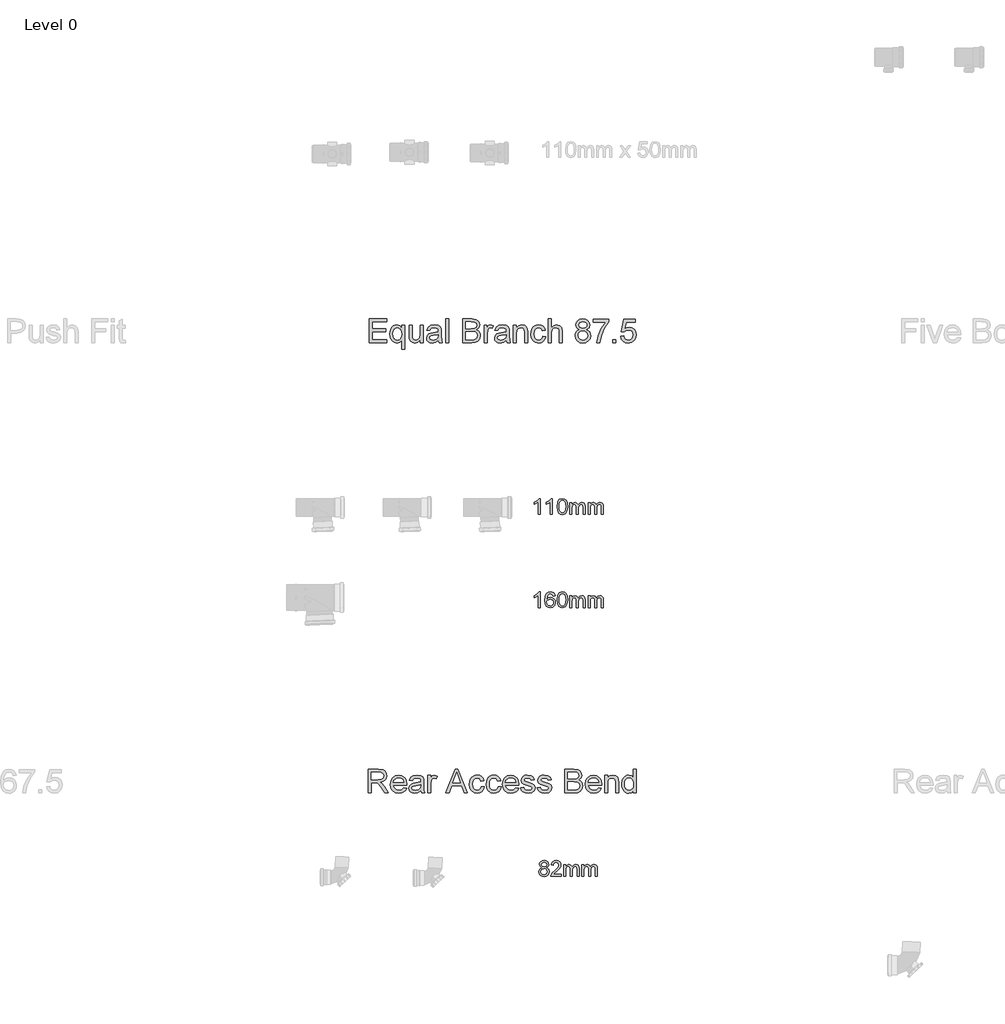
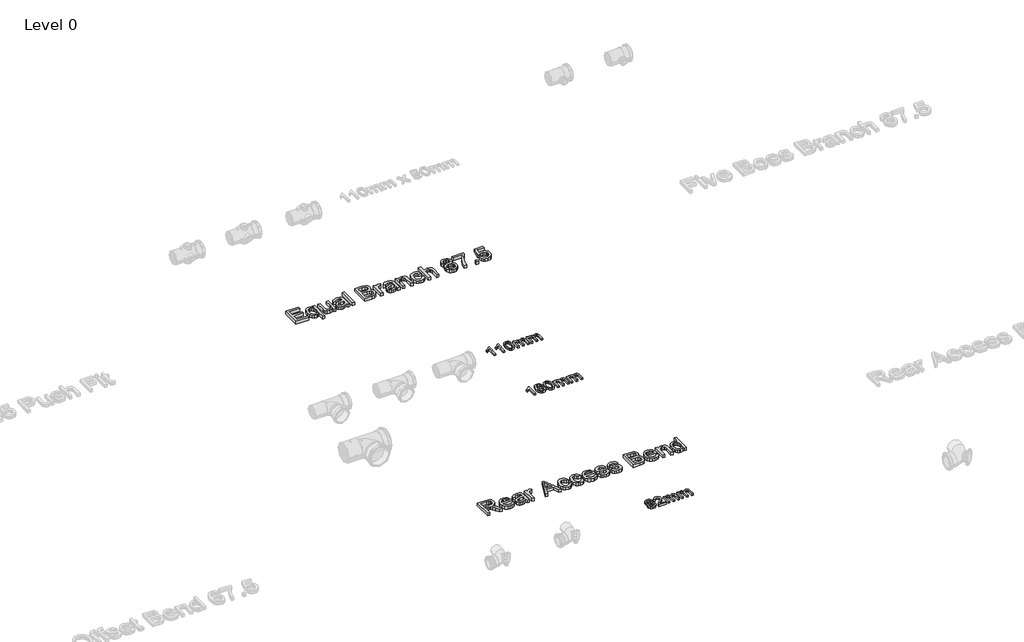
# One storey, part 11 of 23: 5 proxies.
"""IFC4 building model written with IfcOpenShell, lengths in millimetres."""

from ifc_helpers import new_model, si_unit, origin, origin_with_axes, place, context, project, spatial, polyline, outline, extrude, element, save

model = new_model("IFC4")

# Units and contexts
model_context = context("Model", 3, world=origin())
ifc_project = project(units=[si_unit("LENGTHUNIT", "METRE", prefix="MILLI")], contexts=[model_context])

# Site, building, storey
site = spatial("IfcSite", under=ifc_project)
building = spatial("IfcBuilding", under=site)
storey = spatial("IfcBuildingStorey", under=building, Name="Level 0", Elevation=0.0)

# Proxies
placement = place(None, origin())
element("IfcBuildingElementProxy", 1, Name="100mm Arial", ObjectType="100mm Arial", at=placement, inside=storey, context=model_context, shape_type="SweptSolid", body=[
    extrude(outline(polyline([(-13791.7293188, 2637.7167304), (-13804.0370111, 2637.7167304), (-13804.0370111, 2714.4474996), (-13815.6956649, 2706.1422111), (-13828.6523957, 2699.9282688), (-13828.6523957, 2711.5628842), (-13810.6115303, 2723.0773073), (-13799.6620111, 2736.1782688), (-13791.7293188, 2736.1782688), (-13791.7293188, 2637.7167304)])), origin_with_axes(), (0.0, 0.0, 1.0), 15.0),
    extrude(outline(polyline([(-13716.3447034, 2637.7167304), (-13728.6523957, 2637.7167304), (-13728.6523957, 2714.4474996), (-13740.3110495, 2706.1422111), (-13753.2677803, 2699.9282688), (-13753.2677803, 2711.5628842), (-13735.2269149, 2723.0773073), (-13724.2773957, 2736.1782688), (-13716.3447034, 2736.1782688), (-13716.3447034, 2637.7167304)])), origin_with_axes(), (0.0, 0.0, 1.0), 15.0),
    extrude(outline(polyline([(-13687.1139341, 2686.1542304), (-13683.4961457, 2714.4835573), (-13672.7509534, 2730.8176919), (-13654.8062418, 2736.1782688), (-13640.4312418, 2733.0051919), (-13630.5033572, 2723.8585573), (-13624.7341264, 2709.2912496), (-13622.4985495, 2686.1542304), (-13626.0802803, 2657.9450958), (-13636.7894149, 2641.5749035), (-13654.8062418, 2636.1782688), (-13667.5947034, 2638.5220188), (-13677.3062418, 2645.5532688), (-13684.6620111, 2662.2059131), (-13687.1139341, 2686.1542304)]), holes=[polyline([(-13674.8062418, 2686.1782688), (-13673.3639341, 2666.8182929), (-13669.0370111, 2655.613365), (-13662.5947034, 2650.2678121), (-13654.8062418, 2648.4859611), (-13647.0177803, 2650.2738217), (-13640.5754726, 2655.6374035), (-13636.2485495, 2666.848341), (-13634.8062418, 2686.1782688), (-13636.2004726, 2705.1025477), (-13640.3831649, 2716.394615), (-13646.8134534, 2722.0015861), (-13654.9504726, 2723.8705765), (-13662.6547995, 2722.2239419), (-13668.8447034, 2717.2840381), (-13673.3158572, 2705.2888458), (-13674.8062418, 2686.1782688)])]), origin_with_axes(), (0.0, 0.0, 1.0), 15.0),
    extrude(outline(polyline([(-13608.6523957, 2637.7167304), (-13608.6523957, 2710.0244227), (-13596.3447034, 2710.0244227), (-13596.3447034, 2698.1253842), (-13587.8831649, 2707.8729804), (-13575.8398957, 2711.5628842), (-13563.5081649, 2707.800865), (-13556.7293188, 2697.2599996), (-13547.1259534, 2707.9871631), (-13534.9985495, 2711.5628842), (-13525.7467466, 2710.0755044), (-13518.9047995, 2705.613365), (-13514.6770351, 2698.0562736), (-13513.2677803, 2687.2840381), (-13513.2677803, 2637.7167304), (-13525.5754726, 2637.7167304), (-13525.5754726, 2681.9955765), (-13526.7172995, 2692.2720188), (-13530.8519149, 2697.332115), (-13537.8831649, 2699.2551919), (-13549.9865303, 2694.3273073), (-13554.8062418, 2678.5340381), (-13554.8062418, 2637.7167304), (-13567.1139341, 2637.7167304), (-13567.1139341, 2683.3657688), (-13569.9624918, 2695.2888458), (-13579.3014341, 2699.2551919), (-13588.4120111, 2696.6109611), (-13594.4697034, 2688.8705765), (-13596.3447034, 2674.1830765), (-13596.3447034, 2637.7167304), (-13608.6523957, 2637.7167304)])), origin_with_axes(), (0.0, 0.0, 1.0), 15.0),
    extrude(outline(polyline([(-13494.8062418, 2637.7167304), (-13494.8062418, 2710.0244227), (-13482.4985495, 2710.0244227), (-13482.4985495, 2698.1253842), (-13474.0370111, 2707.8729804), (-13461.9937418, 2711.5628842), (-13449.6620111, 2707.800865), (-13442.8831649, 2697.2599996), (-13433.2797995, 2707.9871631), (-13421.1523957, 2711.5628842), (-13411.9005928, 2710.0755044), (-13405.0586457, 2705.613365), (-13400.8308813, 2698.0562736), (-13399.4216264, 2687.2840381), (-13399.4216264, 2637.7167304), (-13411.7293188, 2637.7167304), (-13411.7293188, 2681.9955765), (-13412.8711457, 2692.2720188), (-13417.0057611, 2697.332115), (-13424.0370111, 2699.2551919), (-13436.1403764, 2694.3273073), (-13440.960088, 2678.5340381), (-13440.960088, 2637.7167304), (-13453.2677803, 2637.7167304), (-13453.2677803, 2683.3657688), (-13456.116338, 2695.2888458), (-13465.4552803, 2699.2551919), (-13474.5658572, 2696.6109611), (-13480.6235495, 2688.8705765), (-13482.4985495, 2674.1830765), (-13482.4985495, 2637.7167304), (-13494.8062418, 2637.7167304)])), origin_with_axes(), (0.0, 0.0, 1.0), 15.0),
])
element("IfcBuildingElementProxy", 2, Name="100mm Arial", ObjectType="100mm Arial", at=placement, inside=storey, context=model_context, shape_type="SweptSolid", body=[
    extrude(outline(polyline([(-13791.7293188, 2057.7167304), (-13804.0370111, 2057.7167304), (-13804.0370111, 2134.4474996), (-13815.6956649, 2126.1422111), (-13828.6523957, 2119.9282688), (-13828.6523957, 2131.5628842), (-13810.6115303, 2143.0773073), (-13799.6620111, 2156.1782688), (-13791.7293188, 2156.1782688), (-13791.7293188, 2057.7167304)])), origin_with_axes(), (0.0, 0.0, 1.0), 15.0),
    extrude(outline(polyline([(-13699.4216264, 2130.0244227), (-13711.7293188, 2128.4859611), (-13716.3927803, 2138.7503842), (-13728.7245111, 2143.8705765), (-13739.8302803, 2140.8898073), (-13748.2317226, 2129.6999035), (-13751.7293188, 2107.7648073), (-13740.8759534, 2117.5845188), (-13727.4264341, 2120.7936535), (-13716.0562418, 2118.6001438), (-13706.5129726, 2112.019615), (-13700.0406168, 2101.9655285), (-13697.8831649, 2089.3513458), (-13701.9456649, 2072.3681727), (-13713.1235495, 2060.3489419), (-13729.2533572, 2056.1782688), (-13743.2166986, 2058.9426919), (-13754.3374918, 2067.2359611), (-13761.6121313, 2081.8753842), (-13764.0370111, 2103.6782688), (-13761.3447034, 2128.19149), (-13753.2677803, 2144.9523073), (-13742.2401361, 2153.3717785), (-13727.9552803, 2156.1782688), (-13717.1560014, 2154.44149), (-13708.5081649, 2149.2311535), (-13702.4504726, 2140.9559131), (-13699.4216264, 2130.0244227)]), holes=[polyline([(-13751.7293188, 2089.5436535), (-13748.8807611, 2078.8825958), (-13741.3086457, 2071.1422111), (-13730.2148957, 2068.4859611), (-13722.0929005, 2069.8621631), (-13715.7076841, 2073.9907688), (-13711.5700639, 2080.4811535), (-13710.1908572, 2088.9426919), (-13711.5520351, 2097.0646871), (-13715.6355688, 2103.2575958), (-13730.7197034, 2108.4859611), (-13745.6115303, 2103.2575958), (-13750.1998716, 2097.2149275), (-13751.7293188, 2089.5436535)])]), origin_with_axes(), (0.0, 0.0, 1.0), 15.0),
    extrude(outline(polyline([(-13687.1139341, 2106.1542304), (-13683.4961457, 2134.4835573), (-13672.7509534, 2150.8176919), (-13654.8062418, 2156.1782688), (-13640.4312418, 2153.0051919), (-13630.5033572, 2143.8585573), (-13624.7341264, 2129.2912496), (-13622.4985495, 2106.1542304), (-13626.0802803, 2077.9450958), (-13636.7894149, 2061.5749035), (-13654.8062418, 2056.1782688), (-13667.5947034, 2058.5220188), (-13677.3062418, 2065.5532688), (-13684.6620111, 2082.2059131), (-13687.1139341, 2106.1542304)]), holes=[polyline([(-13674.8062418, 2106.1782688), (-13673.3639341, 2086.8182929), (-13669.0370111, 2075.613365), (-13662.5947034, 2070.2678121), (-13654.8062418, 2068.4859611), (-13647.0177803, 2070.2738217), (-13640.5754726, 2075.6374035), (-13636.2485495, 2086.848341), (-13634.8062418, 2106.1782688), (-13636.2004726, 2125.1025477), (-13640.3831649, 2136.394615), (-13646.8134534, 2142.0015861), (-13654.9504726, 2143.8705765), (-13662.6547995, 2142.2239419), (-13668.8447034, 2137.2840381), (-13673.3158572, 2125.2888458), (-13674.8062418, 2106.1782688)])]), origin_with_axes(), (0.0, 0.0, 1.0), 15.0),
    extrude(outline(polyline([(-13608.6523957, 2057.7167304), (-13608.6523957, 2130.0244227), (-13596.3447034, 2130.0244227), (-13596.3447034, 2118.1253842), (-13587.8831649, 2127.8729804), (-13575.8398957, 2131.5628842), (-13563.5081649, 2127.800865), (-13556.7293188, 2117.2599996), (-13547.1259534, 2127.9871631), (-13534.9985495, 2131.5628842), (-13525.7467466, 2130.0755044), (-13518.9047995, 2125.613365), (-13514.6770351, 2118.0562736), (-13513.2677803, 2107.2840381), (-13513.2677803, 2057.7167304), (-13525.5754726, 2057.7167304), (-13525.5754726, 2101.9955765), (-13526.7172995, 2112.2720188), (-13530.8519149, 2117.332115), (-13537.8831649, 2119.2551919), (-13549.9865303, 2114.3273073), (-13554.8062418, 2098.5340381), (-13554.8062418, 2057.7167304), (-13567.1139341, 2057.7167304), (-13567.1139341, 2103.3657688), (-13569.9624918, 2115.2888458), (-13579.3014341, 2119.2551919), (-13588.4120111, 2116.6109611), (-13594.4697034, 2108.8705765), (-13596.3447034, 2094.1830765), (-13596.3447034, 2057.7167304), (-13608.6523957, 2057.7167304)])), origin_with_axes(), (0.0, 0.0, 1.0), 15.0),
    extrude(outline(polyline([(-13494.8062418, 2057.7167304), (-13494.8062418, 2130.0244227), (-13482.4985495, 2130.0244227), (-13482.4985495, 2118.1253842), (-13474.0370111, 2127.8729804), (-13461.9937418, 2131.5628842), (-13449.6620111, 2127.800865), (-13442.8831649, 2117.2599996), (-13433.2797995, 2127.9871631), (-13421.1523957, 2131.5628842), (-13411.9005928, 2130.0755044), (-13405.0586457, 2125.613365), (-13400.8308813, 2118.0562736), (-13399.4216264, 2107.2840381), (-13399.4216264, 2057.7167304), (-13411.7293188, 2057.7167304), (-13411.7293188, 2101.9955765), (-13412.8711457, 2112.2720188), (-13417.0057611, 2117.332115), (-13424.0370111, 2119.2551919), (-13436.1403764, 2114.3273073), (-13440.960088, 2098.5340381), (-13440.960088, 2057.7167304), (-13453.2677803, 2057.7167304), (-13453.2677803, 2103.3657688), (-13456.116338, 2115.2888458), (-13465.4552803, 2119.2551919), (-13474.5658572, 2116.6109611), (-13480.6235495, 2108.8705765), (-13482.4985495, 2094.1830765), (-13482.4985495, 2057.7167304), (-13494.8062418, 2057.7167304)])), origin_with_axes(), (0.0, 0.0, 1.0), 15.0),
])
element("IfcBuildingElementProxy", 3, Name="100mm Arial", ObjectType="100mm Arial", at=placement, inside=storey, context=model_context, shape_type="SweptSolid", body=[
    extrude(outline(polyline([(-13782.2581649, 440.881174), (-13793.4721072, 448.5254048), (-13797.1139341, 460.4244433), (-13795.1307611, 470.0458375), (-13789.1812418, 477.9965587), (-13779.9324438, 483.3330971), (-13768.0514341, 485.1119433), (-13756.0983091, 483.2910298), (-13746.7293188, 477.8282894), (-13740.6716264, 469.7513663), (-13738.6523957, 460.0879048), (-13742.2461457, 448.4893471), (-13753.147588, 440.881174), (-13740.0586457, 431.2297317), (-13735.5754726, 415.304251), (-13737.7990303, 403.537424), (-13744.4697034, 393.8138663), (-13754.7701841, 387.287424), (-13767.8831649, 385.1119433), (-13780.9961457, 387.2964385), (-13791.2966264, 393.849924), (-13797.9672995, 403.6666308), (-13800.1908572, 415.6407894), (-13795.5273957, 431.9388663), (-13782.2581649, 440.881174)]), holes=[polyline([(-13784.8062418, 460.0638663), (-13780.4432611, 450.4004048), (-13767.7389341, 446.6504048), (-13755.2870111, 450.3763663), (-13750.960088, 459.5109817), (-13755.4312418, 468.9701163), (-13767.8831649, 472.804251), (-13780.3711457, 469.054251), (-13784.8062418, 460.0638663)]), polyline([(-13787.8831649, 416.0734817), (-13785.8278764, 406.8066548), (-13778.5562418, 399.8715587), (-13767.7870111, 397.4196356), (-13753.1235495, 402.5758856), (-13747.8831649, 415.6888663), (-13753.2918188, 429.054251), (-13759.7221072, 433.0205971), (-13768.1956649, 434.3427125), (-13782.678838, 429.1263663), (-13787.8831649, 416.0734817)])]), origin_with_axes(), (0.0, 0.0, 1.0), 15.0),
    extrude(outline(polyline([(-13661.7293188, 398.9580971), (-13661.7293188, 386.6504048), (-13726.3447034, 386.6504048), (-13725.022588, 395.1359817), (-13717.5466264, 408.2008856), (-13702.1379726, 422.4677125), (-13680.8879726, 442.9725202), (-13675.5754726, 456.9148279), (-13680.5874918, 468.2008856), (-13693.6764341, 472.804251), (-13707.3182611, 468.3090587), (-13712.4985495, 455.881174), (-13724.8062418, 457.4196356), (-13721.8224678, 469.3246837), (-13715.3711457, 478.0205971), (-13705.7888139, 483.3391067), (-13693.4120111, 485.1119433), (-13680.9450639, 483.1407894), (-13671.3807611, 477.2273279), (-13665.2960255, 468.3931933), (-13663.2677803, 457.6600202), (-13665.4552803, 445.9893471), (-13672.7269149, 433.9220394), (-13690.3591264, 417.0590587), (-13704.5177803, 405.2201163), (-13710.0706649, 398.9580971), (-13661.7293188, 398.9580971)])), origin_with_axes(), (0.0, 0.0, 1.0), 15.0),
    extrude(outline(polyline([(-13646.3447034, 386.6504048), (-13646.3447034, 458.9580971), (-13634.0370111, 458.9580971), (-13634.0370111, 447.0590587), (-13625.5754726, 456.8066548), (-13613.5322034, 460.4965587), (-13601.2004726, 456.7345394), (-13594.4216264, 446.193674), (-13584.8182611, 456.9208375), (-13572.6908572, 460.4965587), (-13563.4390543, 459.0091788), (-13556.5971072, 454.5470394), (-13552.3693428, 446.9899481), (-13550.960088, 436.2177125), (-13550.960088, 386.6504048), (-13563.2677803, 386.6504048), (-13563.2677803, 430.929251), (-13564.4096072, 441.2056933), (-13568.5442226, 446.2657894), (-13575.5754726, 448.1888663), (-13587.678838, 443.2609817), (-13592.4985495, 427.4677125), (-13592.4985495, 386.6504048), (-13604.8062418, 386.6504048), (-13604.8062418, 432.2994433), (-13607.6547995, 444.2225202), (-13616.9937418, 448.1888663), (-13626.1043188, 445.5446356), (-13632.1620111, 437.804251), (-13634.0370111, 423.116751), (-13634.0370111, 386.6504048), (-13646.3447034, 386.6504048)])), origin_with_axes(), (0.0, 0.0, 1.0), 15.0),
    extrude(outline(polyline([(-13532.4985495, 386.6504048), (-13532.4985495, 458.9580971), (-13520.1908572, 458.9580971), (-13520.1908572, 447.0590587), (-13511.7293188, 456.8066548), (-13499.6860495, 460.4965587), (-13487.3543188, 456.7345394), (-13480.5754726, 446.193674), (-13470.9721072, 456.9208375), (-13458.8447034, 460.4965587), (-13449.5929005, 459.0091788), (-13442.7509534, 454.5470394), (-13438.5231889, 446.9899481), (-13437.1139341, 436.2177125), (-13437.1139341, 386.6504048), (-13449.4216264, 386.6504048), (-13449.4216264, 430.929251), (-13450.5634534, 441.2056933), (-13454.6980688, 446.2657894), (-13461.7293188, 448.1888663), (-13473.8326841, 443.2609817), (-13478.6523957, 427.4677125), (-13478.6523957, 386.6504048), (-13490.960088, 386.6504048), (-13490.960088, 432.2994433), (-13493.8086457, 444.2225202), (-13503.147588, 448.1888663), (-13512.2581649, 445.5446356), (-13518.3158572, 437.804251), (-13520.1908572, 423.116751), (-13520.1908572, 386.6504048), (-13532.4985495, 386.6504048)])), origin_with_axes(), (0.0, 0.0, 1.0), 15.0),
])
element("IfcBuildingElementProxy", 4, Name="150mm Arial", ObjectType="150mm Arial", at=placement, inside=storey, context=model_context, shape_type="SweptSolid", body=[
    extrude(outline(polyline([(-14854.0664512, 3705.2145219), (-14854.0664512, 3852.9068296), (-14747.912605, 3852.9068296), (-14747.912605, 3834.4452911), (-14835.6049127, 3834.4452911), (-14835.6049127, 3790.5991373), (-14752.5279897, 3790.5991373), (-14752.5279897, 3772.1375988), (-14835.6049127, 3772.1375988), (-14835.6049127, 3723.6760604), (-14745.6049127, 3723.6760604), (-14745.6049127, 3705.2145219), (-14854.0664512, 3705.2145219)])), origin_with_axes(), (0.0, 0.0, 1.0), 25.0),
    extrude(outline(polyline([(-14653.2972204, 3663.6760604), (-14653.2972204, 3719.9981758), (-14665.0159704, 3707.7746181), (-14681.0255858, 3702.9068296), (-14698.5766675, 3706.7514811), (-14713.5135666, 3718.2854354), (-14723.7359223, 3736.5171061), (-14727.1433743, 3760.4549065), (-14721.7347204, 3789.697695), (-14715.1091195, 3801.0738969), (-14706.0496243, 3809.3130796), (-14695.2773887, 3814.3160844), (-14683.5135666, 3815.9837527), (-14666.350105, 3810.8094738), (-14653.2972204, 3795.2866373), (-14653.2972204, 3813.6760604), (-14634.835682, 3813.6760604), (-14634.835682, 3663.6760604), (-14653.2972204, 3663.6760604)]), holes=[polyline([(-14708.6818358, 3759.4452911), (-14706.6040113, 3742.7866373), (-14700.3705377, 3730.8875988), (-14691.2344199, 3723.7481758), (-14680.4486627, 3721.3683681), (-14670.1136267, 3723.6309883), (-14661.320057, 3730.4188488), (-14655.3029296, 3741.8311085), (-14653.2972204, 3757.9669258), (-14655.4111026, 3775.2160243), (-14661.7527493, 3787.58832), (-14670.9429536, 3795.0387407), (-14681.6025089, 3797.5222142), (-14692.0637469, 3795.2100147), (-14700.80323, 3788.2734161), (-14706.7121844, 3776.4419859), (-14708.6818358, 3759.4452911)])]), origin_with_axes(), (0.0, 0.0, 1.0), 25.0),
    extrude(outline(polyline([(-14537.912605, 3705.2145219), (-14537.912605, 3723.8563488), (-14552.3717397, 3708.1442094), (-14571.2299127, 3702.9068296), (-14588.5916916, 3706.5847142), (-14600.5628454, 3715.8154835), (-14606.0616435, 3729.4092335), (-14607.1433743, 3746.572695), (-14607.1433743, 3813.6760604), (-14588.6818358, 3813.6760604), (-14588.6818358, 3755.2625988), (-14587.5640473, 3736.4404835), (-14580.2623647, 3725.3888008), (-14566.506355, 3721.3683681), (-14551.0916916, 3725.478945), (-14540.9053935, 3736.6748585), (-14537.912605, 3757.2457719), (-14537.912605, 3813.6760604), (-14519.4510666, 3813.6760604), (-14519.4510666, 3705.2145219), (-14537.912605, 3705.2145219)])), origin_with_axes(), (0.0, 0.0, 1.0), 25.0),
    extrude(outline(polyline([(-14424.835682, 3719.0606758), (-14442.7383262, 3706.5486565), (-14462.5159704, 3702.9068296), (-14477.9441555, 3705.0973344), (-14489.3248647, 3711.6688488), (-14496.342593, 3721.6478152), (-14498.6818358, 3734.0606758), (-14495.148182, 3748.6640411), (-14485.8633262, 3759.2650027), (-14472.9366435, 3765.322695), (-14456.9630858, 3768.0991373), (-14424.943855, 3774.4452911), (-14424.835682, 3778.5558681), (-14426.1067156, 3786.7950508), (-14429.9198166, 3792.1856758), (-14438.4474608, 3796.1880796), (-14450.3284704, 3797.5222142), (-14469.006355, 3793.9705315), (-14477.912605, 3781.3683681), (-14496.3741435, 3783.6760604), (-14488.3873647, 3801.7049065), (-14472.3056339, 3812.2698104), (-14447.9486627, 3815.9837527), (-14425.5748647, 3812.7025027), (-14412.9366435, 3804.46332), (-14407.2755858, 3791.9332719), (-14406.3741435, 3775.7794258), (-14406.3741435, 3752.8106758), (-14405.4366435, 3720.7373585), (-14401.7587589, 3705.2145219), (-14420.2202973, 3705.2145219), (-14424.835682, 3719.0606758)]), holes=[polyline([(-14424.835682, 3755.9837527), (-14454.6193358, 3750.322695), (-14470.5027493, 3747.3299065), (-14477.6962589, 3742.4621181), (-14480.2202973, 3735.3587527), (-14474.7214993, 3725.3707719), (-14458.585682, 3721.3683681), (-14439.9077973, 3725.7854354), (-14427.8645281, 3736.4765411), (-14424.943855, 3750.7553873), (-14424.835682, 3755.9837527)])]), origin_with_axes(), (0.0, 0.0, 1.0), 25.0),
    extrude(outline(polyline([(-14380.9895281, 3705.2145219), (-14380.9895281, 3852.9068296), (-14362.5279897, 3852.9068296), (-14362.5279897, 3705.2145219), (-14380.9895281, 3705.2145219)])), origin_with_axes(), (0.0, 0.0, 1.0), 25.0),
    extrude(outline(polyline([(-14274.835682, 3705.2145219), (-14274.835682, 3852.9068296), (-14218.4775089, 3852.9068296), (-14190.8753454, 3848.5618777), (-14181.5995041, 3843.049558), (-14174.5772685, 3835.2025027), (-14168.6818358, 3816.3082719), (-14173.6397685, 3799.0546661), (-14188.6217397, 3785.9837527), (-14178.1605017, 3780.5210123), (-14170.4306339, 3772.2097142), (-14165.6574969, 3761.5997383), (-14164.0664512, 3749.2409642), (-14168.4114031, 3729.3912046), (-14179.1746243, 3715.2565892), (-14195.2383262, 3707.7565892), (-14218.9102012, 3705.2145219), (-14274.835682, 3705.2145219)]), holes=[polyline([(-14256.3741435, 3723.6760604), (-14218.5135666, 3723.6760604), (-14204.8116435, 3724.3972142), (-14193.2190954, 3728.4176469), (-14185.538807, 3736.6207719), (-14182.5279897, 3749.0606758), (-14186.0616435, 3763.4116373), (-14197.5099608, 3771.9753392), (-14220.3164512, 3774.4452911), (-14256.3741435, 3774.4452911), (-14256.3741435, 3723.6760604)]), polyline([(-14256.3741435, 3792.9068296), (-14222.6602012, 3792.9068296), (-14202.9727012, 3794.4933681), (-14191.1277493, 3801.3263008), (-14187.1433743, 3813.3515411), (-14190.8573166, 3825.3948104), (-14201.4943358, 3832.5162046), (-14225.2202973, 3834.4452911), (-14256.3741435, 3834.4452911), (-14256.3741435, 3792.9068296)])]), origin_with_axes(), (0.0, 0.0, 1.0), 25.0),
    extrude(outline(polyline([(-14140.9895281, 3705.2145219), (-14140.9895281, 3813.6760604), (-14124.835682, 3813.6760604), (-14124.835682, 3797.6303873), (-14113.3693358, 3812.4140411), (-14101.8308743, 3815.9837527), (-14083.2972204, 3810.2866373), (-14089.4630858, 3793.7361565), (-14102.443855, 3797.5222142), (-14112.882557, 3793.8803873), (-14119.5352012, 3783.7842335), (-14122.5279897, 3762.2217335), (-14122.5279897, 3705.2145219), (-14140.9895281, 3705.2145219)])), origin_with_axes(), (0.0, 0.0, 1.0), 25.0),
    extrude(outline(polyline([(-14002.5279897, 3719.0606758), (-14020.4306339, 3706.5486565), (-14040.2082781, 3702.9068296), (-14055.6364632, 3705.0973344), (-14067.0171723, 3711.6688488), (-14074.0349007, 3721.6478152), (-14076.3741435, 3734.0606758), (-14072.8404897, 3748.6640411), (-14063.5556339, 3759.2650027), (-14050.6289512, 3765.322695), (-14034.6553935, 3768.0991373), (-14002.6361627, 3774.4452911), (-14002.5279897, 3778.5558681), (-14003.7990233, 3786.7950508), (-14007.6121243, 3792.1856758), (-14016.1397685, 3796.1880796), (-14028.0207781, 3797.5222142), (-14046.6986627, 3793.9705315), (-14055.6049127, 3781.3683681), (-14074.0664512, 3783.6760604), (-14066.0796723, 3801.7049065), (-14049.9979416, 3812.2698104), (-14025.6409704, 3815.9837527), (-14003.2671723, 3812.7025027), (-13990.6289512, 3804.46332), (-13984.9678935, 3791.9332719), (-13984.0664512, 3775.7794258), (-13984.0664512, 3752.8106758), (-13983.1289512, 3720.7373585), (-13979.4510666, 3705.2145219), (-13997.912605, 3705.2145219), (-14002.5279897, 3719.0606758)]), holes=[polyline([(-14002.5279897, 3755.9837527), (-14032.3116435, 3750.322695), (-14048.195057, 3747.3299065), (-14055.3885666, 3742.4621181), (-14057.912605, 3735.3587527), (-14052.413807, 3725.3707719), (-14036.2779897, 3721.3683681), (-14017.600105, 3725.7854354), (-14005.5568358, 3736.4765411), (-14002.6361627, 3750.7553873), (-14002.5279897, 3755.9837527)])]), origin_with_axes(), (0.0, 0.0, 1.0), 25.0),
    extrude(outline(polyline([(-13958.6818358, 3705.2145219), (-13958.6818358, 3813.6760604), (-13940.2202973, 3813.6760604), (-13940.2202973, 3798.5318296), (-13926.1037108, 3811.6207719), (-13906.8308743, 3815.9837527), (-13889.39698, 3812.4681277), (-13877.4979416, 3803.2373585), (-13871.9630858, 3789.6616373), (-13870.9895281, 3771.8130796), (-13870.9895281, 3705.2145219), (-13889.4510666, 3705.2145219), (-13889.4510666, 3769.3250988), (-13891.5784704, 3785.6592335), (-13899.0964993, 3794.2950508), (-13911.7707781, 3797.5222142), (-13922.5835786, 3795.7103152), (-13931.8008262, 3790.2746181), (-13938.1154296, 3779.7728152), (-13940.2202973, 3762.7625988), (-13940.2202973, 3705.2145219), (-13958.6818358, 3705.2145219)])), origin_with_axes(), (0.0, 0.0, 1.0), 25.0),
    extrude(outline(polyline([(-13776.3741435, 3744.4452911), (-13757.912605, 3742.1375988), (-13763.0598406, 3725.7178272), (-13772.7323166, 3713.3094738), (-13786.0195762, 3705.5074907), (-13802.0111627, 3702.9068296), (-13821.6490834, 3706.5351349), (-13837.0051531, 3717.4200508), (-13846.9165113, 3735.0838128), (-13850.2202973, 3759.0486565), (-13844.5772685, 3789.7157238), (-13837.4558743, 3801.2136205), (-13827.3777493, 3809.4212527), (-13815.3209584, 3814.3431277), (-13802.2635666, 3815.9837527), (-13786.6641074, 3813.7301469), (-13774.1926531, 3806.9693296), (-13765.2458382, 3796.0618777), (-13760.2202973, 3781.3683681), (-13778.6818358, 3779.0606758), (-13787.2455377, 3792.8888008), (-13802.1193358, 3797.5222142), (-13814.0499247, 3795.2415652), (-13823.5195762, 3788.3996181), (-13829.6989632, 3776.6267815), (-13831.7587589, 3759.5534642), (-13829.7440353, 3742.2502791), (-13823.6998647, 3730.4368777), (-13814.4014872, 3723.6354955), (-13802.6241435, 3721.3683681), (-13793.0643478, 3722.7836325), (-13785.226307, 3727.0294258), (-13779.5246844, 3734.213921), (-13776.3741435, 3744.4452911)])), origin_with_axes(), (0.0, 0.0, 1.0), 25.0),
    extrude(outline(polyline([(-13741.7587589, 3705.2145219), (-13741.7587589, 3852.9068296), (-13723.2972204, 3852.9068296), (-13723.2972204, 3798.603945), (-13708.9011868, 3811.6388008), (-13691.1698166, 3815.9837527), (-13670.4366435, 3811.2421661), (-13657.8525089, 3798.135195), (-13654.0664512, 3773.8683681), (-13654.0664512, 3705.2145219), (-13672.5279897, 3705.2145219), (-13672.5279897, 3771.9573104), (-13673.9973406, 3783.5138008), (-13678.4053935, 3791.4284642), (-13685.5087589, 3795.9987767), (-13695.0640473, 3797.5222142), (-13710.1902493, 3793.4116373), (-13720.2864031, 3782.2698104), (-13723.2972204, 3762.8347142), (-13723.2972204, 3705.2145219), (-13741.7587589, 3705.2145219)])), origin_with_axes(), (0.0, 0.0, 1.0), 25.0),
    extrude(outline(polyline([(-13548.7058743, 3786.5606758), (-13565.5267877, 3798.0270219), (-13570.9895281, 3815.8755796), (-13568.0147685, 3830.307671), (-13559.0904897, 3842.2337527), (-13545.2172925, 3850.2385604), (-13527.3957781, 3852.9068296), (-13509.4660906, 3850.1754594), (-13495.412605, 3841.9813488), (-13486.3260666, 3829.8659642), (-13483.2972204, 3815.3707719), (-13488.6878454, 3797.9729354), (-13505.0400089, 3786.5606758), (-13493.6773286, 3780.705808), (-13485.4065954, 3772.0835123), (-13480.3630257, 3761.1084522), (-13478.6818358, 3748.1952911), (-13482.0171723, 3730.5450508), (-13492.023182, 3715.9597142), (-13507.4739031, 3706.1700508), (-13527.1433743, 3702.9068296), (-13546.8128454, 3706.1835724), (-13562.2635666, 3716.0138008), (-13572.2695762, 3730.7388609), (-13575.6049127, 3748.7000988), (-13573.8561147, 3762.1135604), (-13568.6097204, 3773.1472142), (-13560.1361627, 3781.4224546), (-13548.7058743, 3786.5606758)]), holes=[polyline([(-13552.5279897, 3815.3347142), (-13550.8918719, 3807.27582), (-13545.9835185, 3800.8395219), (-13537.9471603, 3796.6207719), (-13526.9270281, 3795.2145219), (-13516.163807, 3796.6117575), (-13508.2491435, 3800.8034642), (-13503.381355, 3807.0234161), (-13501.7587589, 3814.5053873), (-13503.4354416, 3822.2713128), (-13508.4654897, 3828.6940892), (-13516.4883262, 3833.0074907), (-13527.1433743, 3834.4452911), (-13537.8660305, 3833.0390411), (-13545.8753454, 3828.8202911), (-13550.8648286, 3822.6363969), (-13552.5279897, 3815.3347142)]), polyline([(-13557.1433743, 3749.3491373), (-13554.0604416, 3735.4488969), (-13543.1529897, 3725.0462527), (-13526.9991435, 3721.3683681), (-13514.4330377, 3723.3019618), (-13505.0039512, 3729.1027431), (-13499.1085185, 3737.8872984), (-13497.1433743, 3748.7722142), (-13499.1716195, 3759.8419258), (-13505.256355, 3768.8202911), (-13514.9017877, 3774.7698104), (-13527.6121243, 3776.7529835), (-13540.0024488, 3774.7968536), (-13549.3368839, 3768.9284642), (-13555.1917517, 3760.1213729), (-13557.1433743, 3749.3491373)])]), origin_with_axes(), (0.0, 0.0, 1.0), 25.0),
    extrude(outline(polyline([(-13462.5279897, 3832.1375988), (-13462.5279897, 3850.5991373), (-13365.6049127, 3850.5991373), (-13365.6049127, 3835.6712527), (-13393.0989031, 3795.9537046), (-13414.1385666, 3745.3467335), (-13420.9895281, 3705.2145219), (-13439.4510666, 3705.2145219), (-13432.1133262, 3746.8611565), (-13411.975105, 3793.9344738), (-13384.0664512, 3832.1375988), (-13462.5279897, 3832.1375988)])), origin_with_axes(), (0.0, 0.0, 1.0), 25.0),
    extrude(outline(polyline([(-13340.2202973, 3705.2145219), (-13340.2202973, 3723.6760604), (-13321.7587589, 3723.6760604), (-13321.7587589, 3705.2145219), (-13340.2202973, 3705.2145219)])), origin_with_axes(), (0.0, 0.0, 1.0), 25.0),
    extrude(outline(polyline([(-13291.7587589, 3744.4452911), (-13273.2972204, 3746.7529835), (-13269.9077973, 3735.6697503), (-13263.9943358, 3727.7325508), (-13255.5838791, 3722.9594137), (-13244.7034704, 3721.3683681), (-13231.4702973, 3723.5814089), (-13221.554432, 3730.2205315), (-13215.3615233, 3740.5195099), (-13213.2972204, 3753.7121181), (-13215.2308142, 3766.1339931), (-13221.0315954, 3775.635195), (-13230.7446363, 3781.665844), (-13244.4150089, 3783.6760604), (-13260.6229416, 3780.4669258), (-13270.9895281, 3772.1375988), (-13289.4510666, 3774.4452911), (-13273.2972204, 3850.5991373), (-13201.7587589, 3850.5991373), (-13201.7587589, 3832.1375988), (-13258.3693358, 3832.1375988), (-13266.2659704, 3791.4645219), (-13253.0778695, 3799.4693296), (-13239.2587589, 3802.1375988), (-13222.0096603, 3798.8293056), (-13207.6902493, 3788.9044258), (-13198.0493238, 3773.7782238), (-13194.835682, 3754.8659642), (-13197.7293118, 3736.4044258), (-13206.4102012, 3720.6111565), (-13223.0327973, 3707.3329113), (-13244.7755858, 3702.9068296), (-13262.9080978, 3705.7508801), (-13277.3537108, 3714.2830315), (-13287.2560546, 3727.5116974), (-13291.7587589, 3744.4452911)])), origin_with_axes(), (0.0, 0.0, 1.0), 25.0),
])
element("IfcBuildingElementProxy", 5, Name="150mm Arial", ObjectType="150mm Arial", at=placement, inside=storey, context=model_context, shape_type="SweptSolid", body=[
    extrude(outline(polyline([(-14862.1433743, 905.2145219), (-14862.1433743, 1052.9068296), (-14798.5015473, 1052.9068296), (-14768.9522685, 1048.9224546), (-14759.8567156, 1043.4056277), (-14752.7984223, 1034.8238969), (-14748.2686747, 1024.1823705), (-14746.7587589, 1012.4861565), (-14749.2602613, 997.9368777), (-14756.7647685, 985.8755796), (-14769.4976411, 977.0324306), (-14787.6842397, 972.1375988), (-14777.1914512, 964.2409642), (-14762.2275089, 945.2385604), (-14737.600105, 905.2145219), (-14759.054432, 905.2145219), (-14778.273182, 935.8275027), (-14792.1553935, 956.0919258), (-14801.9089993, 965.6652431), (-14810.6890473, 969.1808681), (-14821.398182, 969.8299065), (-14843.6818358, 969.8299065), (-14843.6818358, 905.2145219), (-14862.1433743, 905.2145219)]), holes=[polyline([(-14843.6818358, 988.291445), (-14802.3597204, 988.291445), (-14781.2839993, 990.9056277), (-14769.3128454, 999.2710123), (-14765.2202973, 1011.8010604), (-14767.1719199, 1020.806469), (-14773.0267877, 1028.0630796), (-14783.1004055, 1032.8497383), (-14797.7082781, 1034.4452911), (-14843.6818358, 1034.4452911), (-14843.6818358, 988.291445)])]), origin_with_axes(), (0.0, 0.0, 1.0), 25.0),
    extrude(outline(polyline([(-14640.8212589, 937.5222142), (-14622.7202973, 935.2145219), (-14629.2422324, 921.5756998), (-14639.6493839, 911.3803873), (-14653.7073767, 905.025219), (-14671.1818358, 902.9068296), (-14692.8434945, 906.5621782), (-14709.5111627, 917.5282238), (-14720.1391675, 935.0928272), (-14723.6818358, 958.5438488), (-14720.1031098, 982.7836325), (-14709.366932, 1000.9116373), (-14692.9246243, 1012.2157238), (-14672.2275089, 1015.9837527), (-14652.1749247, 1012.2247383), (-14636.1517877, 1000.947695), (-14625.6454776, 982.8557479), (-14622.1433743, 958.6520219), (-14622.2515473, 953.6760604), (-14705.2202973, 953.6760604), (-14702.0246844, 939.8569498), (-14694.601307, 929.697695), (-14683.8876651, 923.4506998), (-14670.8212589, 921.3683681), (-14652.7202973, 925.2265411), (-14640.8212589, 937.5222142)]), holes=[polyline([(-14705.2202973, 972.1375988), (-14640.6049127, 972.1375988), (-14643.1019079, 981.8912046), (-14647.9967397, 988.8683681), (-14658.7599608, 995.3587527), (-14672.2996243, 997.5222142), (-14684.7440353, 995.7959522), (-14695.0339993, 990.6171661), (-14702.186944, 982.5447503), (-14705.2202973, 972.1375988)])]), origin_with_axes(), (0.0, 0.0, 1.0), 25.0),
    extrude(outline(polyline([(-14534.4510666, 919.0606758), (-14552.3537108, 906.5486565), (-14572.131355, 902.9068296), (-14587.5595401, 905.0973344), (-14598.9402493, 911.6688488), (-14605.9579776, 921.6478152), (-14608.2972204, 934.0606758), (-14604.7635666, 948.6640411), (-14595.4787108, 959.2650027), (-14582.5520281, 965.322695), (-14566.5784704, 968.0991373), (-14534.5592397, 974.4452911), (-14534.4510666, 978.5558681), (-14535.7221002, 986.7950508), (-14539.5352012, 992.1856758), (-14548.0628454, 996.1880796), (-14559.943855, 997.5222142), (-14578.6217397, 993.9705315), (-14587.5279897, 981.3683681), (-14605.9895281, 983.6760604), (-14598.0027493, 1001.7049065), (-14581.9210185, 1012.2698104), (-14557.5640473, 1015.9837527), (-14535.1902493, 1012.7025027), (-14522.5520281, 1004.46332), (-14516.8909704, 991.9332719), (-14515.9895281, 975.7794258), (-14515.9895281, 952.8106758), (-14515.0520281, 920.7373585), (-14511.3741435, 905.2145219), (-14529.835682, 905.2145219), (-14534.4510666, 919.0606758)]), holes=[polyline([(-14534.4510666, 955.9837527), (-14564.2347204, 950.322695), (-14580.1181339, 947.3299065), (-14587.3116435, 942.4621181), (-14589.835682, 935.3587527), (-14584.3368839, 925.3707719), (-14568.2010666, 921.3683681), (-14549.523182, 925.7854354), (-14537.4799127, 936.4765411), (-14534.5592397, 950.7553873), (-14534.4510666, 955.9837527)])]), origin_with_axes(), (0.0, 0.0, 1.0), 25.0),
    extrude(outline(polyline([(-14490.6049127, 905.2145219), (-14490.6049127, 1013.6760604), (-14474.4510666, 1013.6760604), (-14474.4510666, 997.6303873), (-14462.9847204, 1012.4140411), (-14451.4462589, 1015.9837527), (-14432.912605, 1010.2866373), (-14439.0784704, 993.7361565), (-14452.0592397, 997.5222142), (-14462.4979416, 993.8803873), (-14469.1505858, 983.7842335), (-14472.1433743, 962.2217335), (-14472.1433743, 905.2145219), (-14490.6049127, 905.2145219)])), origin_with_axes(), (0.0, 0.0, 1.0), 25.0),
    extrude(outline(polyline([(-14378.5736627, 905.2145219), (-14319.6193358, 1052.9068296), (-14303.898182, 1052.9068296), (-14244.943855, 905.2145219), (-14264.4510666, 905.2145219), (-14281.3621243, 951.3683681), (-14342.1914512, 951.3683681), (-14359.0664512, 905.2145219), (-14378.5736627, 905.2145219)]), holes=[polyline([(-14335.412605, 969.8299065), (-14288.1049127, 969.8299065), (-14301.4102012, 1006.1400027), (-14311.7587589, 1034.4452911), (-14320.9534704, 1009.3130796), (-14335.412605, 969.8299065)])]), origin_with_axes(), (0.0, 0.0, 1.0), 25.0),
    extrude(outline(polyline([(-14158.2972204, 944.4452911), (-14139.835682, 942.1375988), (-14144.9829175, 925.7178272), (-14154.6553935, 913.3094738), (-14167.9426531, 905.5074907), (-14183.9342397, 902.9068296), (-14203.5721603, 906.5351349), (-14218.92823, 917.4200508), (-14228.8395882, 935.0838128), (-14232.1433743, 959.0486565), (-14226.5003454, 989.7157238), (-14219.3789512, 1001.2136205), (-14209.3008262, 1009.4212527), (-14197.2440353, 1014.3431277), (-14184.1866435, 1015.9837527), (-14168.5871844, 1013.7301469), (-14156.11573, 1006.9693296), (-14147.1689151, 996.0618777), (-14142.1433743, 981.3683681), (-14160.6049127, 979.0606758), (-14169.1686147, 992.8888008), (-14184.0424127, 997.5222142), (-14195.9730017, 995.2415652), (-14205.4426531, 988.3996181), (-14211.6220401, 976.6267815), (-14213.6818358, 959.5534642), (-14211.6671122, 942.2502791), (-14205.6229416, 930.4368777), (-14196.3245642, 923.6354955), (-14184.5472204, 921.3683681), (-14174.9874247, 922.7836325), (-14167.1493839, 927.0294258), (-14161.4477613, 934.213921), (-14158.2972204, 944.4452911)])), origin_with_axes(), (0.0, 0.0, 1.0), 25.0),
    extrude(outline(polyline([(-14054.4510666, 944.4452911), (-14035.9895281, 942.1375988), (-14041.1367637, 925.7178272), (-14050.8092397, 913.3094738), (-14064.0964993, 905.5074907), (-14080.0880858, 902.9068296), (-14099.7260065, 906.5351349), (-14115.0820762, 917.4200508), (-14124.9934344, 935.0838128), (-14128.2972204, 959.0486565), (-14122.6541916, 989.7157238), (-14115.5327973, 1001.2136205), (-14105.4546723, 1009.4212527), (-14093.3978815, 1014.3431277), (-14080.3404897, 1015.9837527), (-14064.7410305, 1013.7301469), (-14052.2695762, 1006.9693296), (-14043.3227613, 996.0618777), (-14038.2972204, 981.3683681), (-14056.7587589, 979.0606758), (-14065.3224608, 992.8888008), (-14080.1962589, 997.5222142), (-14092.1268478, 995.2415652), (-14101.5964993, 988.3996181), (-14107.7758863, 976.6267815), (-14109.835682, 959.5534642), (-14107.8209584, 942.2502791), (-14101.7767877, 930.4368777), (-14092.4784103, 923.6354955), (-14080.7010666, 921.3683681), (-14071.1412709, 922.7836325), (-14063.30323, 927.0294258), (-14057.6016074, 934.213921), (-14054.4510666, 944.4452911)])), origin_with_axes(), (0.0, 0.0, 1.0), 25.0),
    extrude(outline(polyline([(-13943.898182, 937.5222142), (-13925.7972204, 935.2145219), (-13932.3191555, 921.5756998), (-13942.726307, 911.3803873), (-13956.7842997, 905.025219), (-13974.2587589, 902.9068296), (-13995.9204175, 906.5621782), (-14012.5880858, 917.5282238), (-14023.2160906, 935.0928272), (-14026.7587589, 958.5438488), (-14023.1800329, 982.7836325), (-14012.443855, 1000.9116373), (-13996.0015473, 1012.2157238), (-13975.304432, 1015.9837527), (-13955.2518478, 1012.2247383), (-13939.2287108, 1000.947695), (-13928.7224007, 982.8557479), (-13925.2202973, 958.6520219), (-13925.3284704, 953.6760604), (-14008.2972204, 953.6760604), (-14005.1016074, 939.8569498), (-13997.67823, 929.697695), (-13986.9645882, 923.4506998), (-13973.898182, 921.3683681), (-13955.7972204, 925.2265411), (-13943.898182, 937.5222142)]), holes=[polyline([(-14008.2972204, 972.1375988), (-13943.6818358, 972.1375988), (-13946.178831, 981.8912046), (-13951.0736627, 988.8683681), (-13961.8368839, 995.3587527), (-13975.3765473, 997.5222142), (-13987.8209584, 995.7959522), (-13998.1109223, 990.6171661), (-14005.2638671, 982.5447503), (-14008.2972204, 972.1375988)])]), origin_with_axes(), (0.0, 0.0, 1.0), 25.0),
    extrude(outline(polyline([(-13913.6818358, 937.5222142), (-13895.2202973, 939.8299065), (-13892.3086387, 931.9332719), (-13886.6746243, 926.1279835), (-13867.0952973, 921.3683681), (-13848.273182, 925.7313488), (-13842.1433743, 935.9717335), (-13848.3092397, 944.2650027), (-13867.3116435, 949.5294258), (-13895.1121243, 958.5618777), (-13907.2455377, 969.1087527), (-13911.3741435, 984.0005796), (-13908.0568358, 997.7565892), (-13899.006355, 1008.2674065), (-13887.2695762, 1013.7301469), (-13871.3861627, 1015.9837527), (-13848.9222204, 1012.3599546), (-13834.6433743, 1002.5522623), (-13828.2972204, 985.9837527), (-13846.7587589, 983.6760604), (-13853.6998647, 993.8623585), (-13869.943855, 997.5222142), (-13887.6121243, 994.0246181), (-13892.912605, 985.8755796), (-13890.7130858, 980.5029835), (-13883.8260666, 976.4284642), (-13867.9246243, 972.4981758), (-13840.8272685, 963.8082719), (-13828.2431339, 953.9645219), (-13823.6818358, 937.9188488), (-13829.0364031, 920.2505796), (-13844.4871243, 907.43207), (-13867.3477012, 902.9068296), (-13885.9624848, 905.08832), (-13899.5472204, 911.6327911), (-13908.61573, 922.4681277), (-13913.6818358, 937.5222142)])), origin_with_axes(), (0.0, 0.0, 1.0), 25.0),
    extrude(outline(polyline([(-13809.835682, 937.5222142), (-13791.3741435, 939.8299065), (-13788.4624848, 931.9332719), (-13782.8284704, 926.1279835), (-13763.2491435, 921.3683681), (-13744.4270281, 925.7313488), (-13738.2972204, 935.9717335), (-13744.4630858, 944.2650027), (-13763.4654897, 949.5294258), (-13791.2659704, 958.5618777), (-13803.3993839, 969.1087527), (-13807.5279897, 984.0005796), (-13804.210682, 997.7565892), (-13795.1602012, 1008.2674065), (-13783.4234223, 1013.7301469), (-13767.5400089, 1015.9837527), (-13745.0760666, 1012.3599546), (-13730.7972204, 1002.5522623), (-13724.4510666, 985.9837527), (-13742.912605, 983.6760604), (-13749.8537108, 993.8623585), (-13766.0977012, 997.5222142), (-13783.7659704, 994.0246181), (-13789.0664512, 985.8755796), (-13786.866932, 980.5029835), (-13779.9799127, 976.4284642), (-13764.0784704, 972.4981758), (-13736.9811147, 963.8082719), (-13724.39698, 953.9645219), (-13719.835682, 937.9188488), (-13725.1902493, 920.2505796), (-13740.6409704, 907.43207), (-13763.5015473, 902.9068296), (-13782.116331, 905.08832), (-13795.7010666, 911.6327911), (-13804.7695762, 922.4681277), (-13809.835682, 937.5222142)])), origin_with_axes(), (0.0, 0.0, 1.0), 25.0),
    extrude(outline(polyline([(-13639.0664512, 905.2145219), (-13639.0664512, 1052.9068296), (-13582.7082781, 1052.9068296), (-13555.1061147, 1048.5618777), (-13545.8302733, 1043.049558), (-13538.8080377, 1035.2025027), (-13532.912605, 1016.3082719), (-13537.8705377, 999.0546661), (-13552.8525089, 985.9837527), (-13542.3912709, 980.5210123), (-13534.6614031, 972.2097142), (-13529.8882661, 961.5997383), (-13528.2972204, 949.2409642), (-13532.6421723, 929.3912046), (-13543.4053935, 915.2565892), (-13559.4690954, 907.7565892), (-13583.1409704, 905.2145219), (-13639.0664512, 905.2145219)]), holes=[polyline([(-13620.6049127, 923.6760604), (-13582.7443358, 923.6760604), (-13569.0424127, 924.3972142), (-13557.4498647, 928.4176469), (-13549.7695762, 936.6207719), (-13546.7587589, 949.0606758), (-13550.2924127, 963.4116373), (-13561.74073, 971.9753392), (-13584.5472204, 974.4452911), (-13620.6049127, 974.4452911), (-13620.6049127, 923.6760604)]), polyline([(-13620.6049127, 992.9068296), (-13586.8909704, 992.9068296), (-13567.2034704, 994.4933681), (-13555.3585185, 1001.3263008), (-13551.3741435, 1013.3515411), (-13555.0880858, 1025.3948104), (-13565.725105, 1032.5162046), (-13589.4510666, 1034.4452911), (-13620.6049127, 1034.4452911), (-13620.6049127, 992.9068296)])]), origin_with_axes(), (0.0, 0.0, 1.0), 25.0),
    extrude(outline(polyline([(-13429.2827973, 937.5222142), (-13411.1818358, 935.2145219), (-13417.7037709, 921.5756998), (-13428.1109223, 911.3803873), (-13442.1689151, 905.025219), (-13459.6433743, 902.9068296), (-13481.3050329, 906.5621782), (-13497.9727012, 917.5282238), (-13508.600706, 935.0928272), (-13512.1433743, 958.5438488), (-13508.5646483, 982.7836325), (-13497.8284704, 1000.9116373), (-13481.3861627, 1012.2157238), (-13460.6890473, 1015.9837527), (-13440.6364632, 1012.2247383), (-13424.6133262, 1000.947695), (-13414.1070161, 982.8557479), (-13410.6049127, 958.6520219), (-13410.7130858, 953.6760604), (-13493.6818358, 953.6760604), (-13490.4862228, 939.8569498), (-13483.0628454, 929.697695), (-13472.3492036, 923.4506998), (-13459.2827973, 921.3683681), (-13441.1818358, 925.2265411), (-13429.2827973, 937.5222142)]), holes=[polyline([(-13493.6818358, 972.1375988), (-13429.0664512, 972.1375988), (-13431.5634464, 981.8912046), (-13436.4582781, 988.8683681), (-13447.2214993, 995.3587527), (-13460.7611627, 997.5222142), (-13473.2055738, 995.7959522), (-13483.4955377, 990.6171661), (-13490.6484824, 982.5447503), (-13493.6818358, 972.1375988)])]), origin_with_axes(), (0.0, 0.0, 1.0), 25.0),
    extrude(outline(polyline([(-13392.1433743, 905.2145219), (-13392.1433743, 1013.6760604), (-13373.6818358, 1013.6760604), (-13373.6818358, 998.5318296), (-13359.5652493, 1011.6207719), (-13340.2924127, 1015.9837527), (-13322.8585185, 1012.4681277), (-13310.95948, 1003.2373585), (-13305.4246243, 989.6616373), (-13304.4510666, 971.8130796), (-13304.4510666, 905.2145219), (-13322.912605, 905.2145219), (-13322.912605, 969.3250988), (-13325.0400089, 985.6592335), (-13332.5580377, 994.2950508), (-13345.2323166, 997.5222142), (-13356.0451171, 995.7103152), (-13365.2623647, 990.2746181), (-13371.576968, 979.7728152), (-13373.6818358, 962.7625988), (-13373.6818358, 905.2145219), (-13392.1433743, 905.2145219)])), origin_with_axes(), (0.0, 0.0, 1.0), 25.0),
    extrude(outline(polyline([(-13212.1433743, 905.2145219), (-13212.1433743, 922.6303873), (-13224.3579175, 907.837719), (-13241.241932, 902.9068296), (-13253.1770281, 904.6916854), (-13264.1025089, 910.0462527), (-13273.351307, 918.596433), (-13280.256355, 929.9681277), (-13284.5562348, 943.7016012), (-13285.9895281, 959.3371181), (-13280.7070762, 988.7241373), (-13274.1085185, 1000.3797863), (-13264.8777493, 1008.9525027), (-13253.7133863, 1014.2259402), (-13241.3140473, 1015.9837527), (-13224.2948166, 1010.9537046), (-13212.1433743, 997.8827911), (-13212.1433743, 1052.9068296), (-13193.6818358, 1052.9068296), (-13193.6818358, 905.2145219), (-13212.1433743, 905.2145219)]), holes=[polyline([(-13267.5279897, 959.4092335), (-13265.4456579, 942.7100147), (-13259.1986627, 930.8335123), (-13250.1211387, 923.7346541), (-13239.5472204, 921.3683681), (-13228.9778094, 923.6264811), (-13220.1301531, 930.40082), (-13214.140069, 941.8175868), (-13212.1433743, 958.0029835), (-13214.1761267, 975.698296), (-13220.2743839, 987.9669258), (-13229.3474007, 995.1333921), (-13240.304432, 997.5222142), (-13250.9865233, 995.2280436), (-13259.7395281, 988.3455315), (-13265.5808743, 976.5231157), (-13267.5279897, 959.4092335)])]), origin_with_axes(), (0.0, 0.0, 1.0), 25.0),
])

save(model, "model.ifc")
